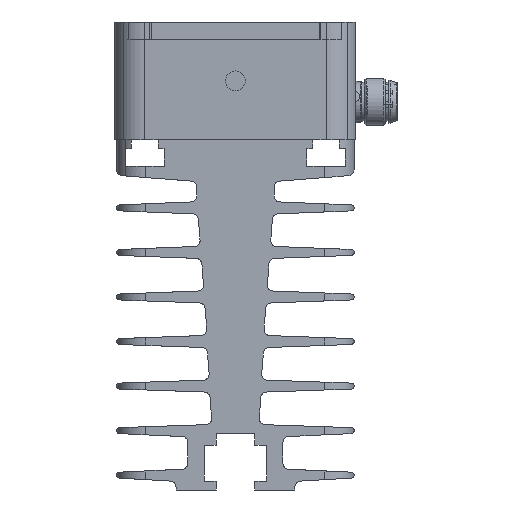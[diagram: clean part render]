
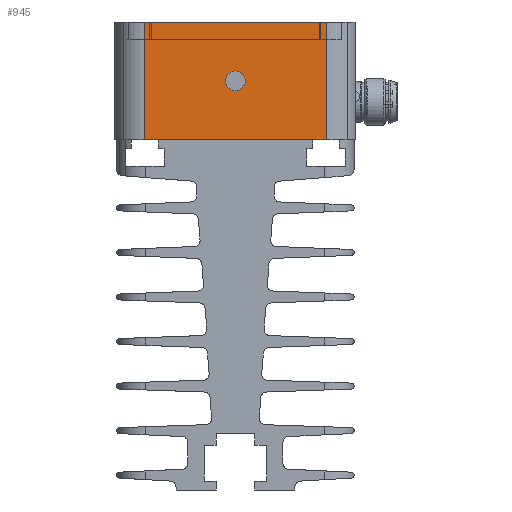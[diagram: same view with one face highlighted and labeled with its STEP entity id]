
A CAD part, left-side view. The second image highlights one B-rep face of the part: STEP entity #945.
In plain terms, the highlighted planar face has unit normal (-1, 0, 0).
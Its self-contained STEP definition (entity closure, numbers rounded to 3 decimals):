
#945=ADVANCED_FACE('0:11872',(#2443,#2444),#2445,.T.);
#2443=FACE_OUTER_BOUND('',#4560,.T.);
#2444=FACE_BOUND('',#4561,.T.);
#2445=PLANE('',#4562);
#4560=EDGE_LOOP('',(#7439,#7440,#7441,#7442,#7443,#7444));
#4561=EDGE_LOOP('',(#7445,#7446));
#4562=AXIS2_PLACEMENT_3D('',#7447,#7448,#7449);
#7439=ORIENTED_EDGE('',*,*,#12641,.F.);
#7440=ORIENTED_EDGE('',*,*,#12923,.T.);
#7441=ORIENTED_EDGE('',*,*,#12924,.T.);
#7442=ORIENTED_EDGE('',*,*,#12925,.T.);
#7443=ORIENTED_EDGE('',*,*,#12926,.F.);
#7444=ORIENTED_EDGE('',*,*,#12927,.T.);
#7445=ORIENTED_EDGE('',*,*,#12928,.T.);
#7446=ORIENTED_EDGE('',*,*,#12577,.T.);
#7447=CARTESIAN_POINT('',(-92.1,0.0,0.0));
#7448=DIRECTION('',(-1.0,0.0,0.0));
#7449=DIRECTION('',(0.0,0.0,1.0));
#12577=EDGE_CURVE('0:13516',#15100,#15104,#15106,.T.);
#12641=EDGE_CURVE('0:13498',#15219,#15221,#15222,.T.);
#12923=EDGE_CURVE('0:13501',#15219,#15658,#15659,.T.);
#12924=EDGE_CURVE('0:14380',#15658,#15660,#15661,.F.);
#12925=EDGE_CURVE('0:13507',#15660,#15662,#15663,.T.);
#12926=EDGE_CURVE('0:13510',#15664,#15662,#15665,.T.);
#12927=EDGE_CURVE('0:13513',#15664,#15221,#15666,.F.);
#12928=EDGE_CURVE('0:13516',#15104,#15100,#15667,.T.);
#15100=VERTEX_POINT('',#18625);
#15104=VERTEX_POINT('',#18630);
#15106=CIRCLE('',#18633,1.65);
#15219=VERTEX_POINT('',#18771);
#15221=VERTEX_POINT('',#18773);
#15222=LINE('',#18774,#18775);
#15658=VERTEX_POINT('',#19371);
#15659=LINE('',#19372,#19373);
#15660=VERTEX_POINT('',#19374);
#15661=LINE('',#19375,#19376);
#15662=VERTEX_POINT('',#19377);
#15663=LINE('',#19378,#19379);
#15664=VERTEX_POINT('',#19380);
#15665=LINE('',#19381,#19382);
#15666=LINE('',#19383,#19384);
#15667=CIRCLE('',#19385,1.65);
#18625=CARTESIAN_POINT('',(-92.1,1.65,9.9));
#18630=CARTESIAN_POINT('',(-92.1,-1.65,9.9));
#18633=AXIS2_PLACEMENT_3D('',#23969,#23970,#23971);
#18771=CARTESIAN_POINT('',(-92.1,15.3,0.0));
#18773=CARTESIAN_POINT('',(-92.1,15.3,19.8));
#18774=CARTESIAN_POINT('',(-92.1,15.3,0.0));
#18775=VECTOR('',#24072,0.001);
#19371=CARTESIAN_POINT('',(-92.101,13.001,0.));
#19372=CARTESIAN_POINT('',(-92.1,0.0,0.0));
#19373=VECTOR('',#24536,0.001);
#19374=CARTESIAN_POINT('',(-92.101,-12.999,0.));
#19375=CARTESIAN_POINT('',(-92.101,0.001,0.));
#19376=VECTOR('',#24537,0.001);
#19377=CARTESIAN_POINT('',(-92.1,-15.3,0.0));
#19378=CARTESIAN_POINT('',(-92.1,0.0,0.0));
#19379=VECTOR('',#24538,0.001);
#19380=CARTESIAN_POINT('',(-92.1,-15.3,19.8));
#19381=CARTESIAN_POINT('',(-92.1,-15.3,0.0));
#19382=VECTOR('',#24539,0.001);
#19383=CARTESIAN_POINT('',(-92.1,0.0,19.8));
#19384=VECTOR('',#24540,0.001);
#19385=AXIS2_PLACEMENT_3D('',#24541,#24542,#24543);
#23969=CARTESIAN_POINT('',(-92.1,0.0,9.9));
#23970=DIRECTION('',(1.0,0.0,0.0));
#23971=DIRECTION('',(0.0,1.0,0.0));
#24072=DIRECTION('',(0.0,0.0,1.0));
#24536=DIRECTION('',(-0.0,-1.0,-0.0));
#24537=DIRECTION('',(0.,1.0,0.));
#24538=DIRECTION('',(-0.0,-1.0,-0.0));
#24539=DIRECTION('',(-0.0,-0.0,-1.0));
#24540=DIRECTION('',(-0.0,-1.0,-0.0));
#24541=CARTESIAN_POINT('',(-92.1,0.0,9.9));
#24542=DIRECTION('',(1.0,0.0,0.0));
#24543=DIRECTION('',(0.0,1.0,0.0));
